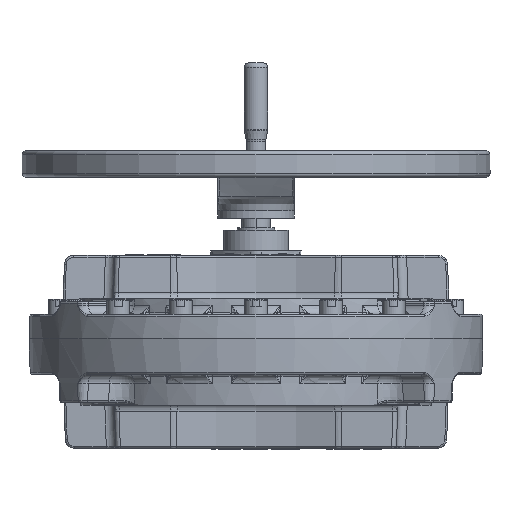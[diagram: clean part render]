
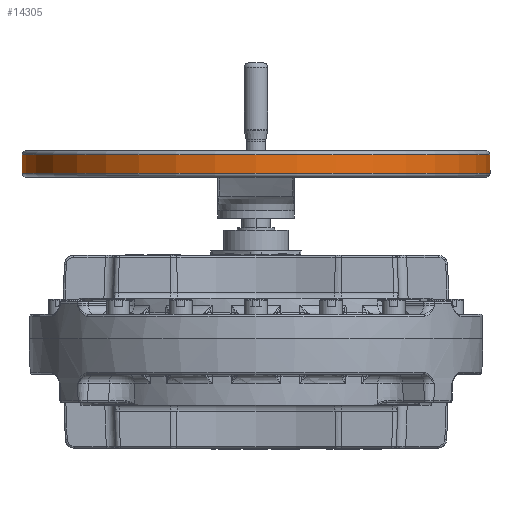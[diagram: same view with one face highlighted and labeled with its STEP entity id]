
A CAD part, front view. The second image highlights one B-rep face of the part: STEP entity #14305.
In plain terms, the highlighted cylindrical face has radius 250 mm (diameter 500 mm), a partial arc.
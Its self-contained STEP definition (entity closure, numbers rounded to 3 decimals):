
#1679 = VERTEX_POINT ( 'NONE', #101850 ) ;
#3200 = EDGE_CURVE ( 'NONE', #12859, #42496, #85063, .T. ) ;
#3873 = CARTESIAN_POINT ( 'NONE',  ( 0., 976.5, 176.76 ) ) ;
#9463 = EDGE_CURVE ( 'NONE', #115606, #12859, #89959, .T. ) ;
#11831 = CARTESIAN_POINT ( 'NONE',  ( 250., 976.5, 98.815 ) ) ;
#12859 = VERTEX_POINT ( 'NONE', #55051 ) ;
#14305 = ADVANCED_FACE ( 'NONE', ( #42751 ), #156165, .T. ) ;
#15064 = DIRECTION ( 'NONE',  ( 0., 0., -1. ) ) ;
#16422 = DIRECTION ( 'NONE',  ( -1., 0., 0. ) ) ;
#16521 = AXIS2_PLACEMENT_3D ( 'NONE', #31489, #117725, #118778 ) ;
#29419 = ORIENTED_EDGE ( 'NONE', *, *, #124407, .F. ) ;
#31489 = CARTESIAN_POINT ( 'NONE',  ( 0., 976.5, 98.815 ) ) ;
#35080 = CARTESIAN_POINT ( 'NONE',  ( -250., 976.5, 176.76 ) ) ;
#40083 = CARTESIAN_POINT ( 'NONE',  ( 250., 976.5, 196.76 ) ) ;
#42496 = VERTEX_POINT ( 'NONE', #35080 ) ;
#42751 = FACE_OUTER_BOUND ( 'NONE', #126619, .T. ) ;
#51800 = VECTOR ( 'NONE', #15064, 1000. ) ;
#54338 = DIRECTION ( 'NONE',  ( 0., 0., -1. ) ) ;
#55051 = CARTESIAN_POINT ( 'NONE',  ( -250., 976.5, 196.76 ) ) ;
#60073 = AXIS2_PLACEMENT_3D ( 'NONE', #3873, #91253, #16422 ) ;
#62083 = DIRECTION ( 'NONE',  ( 0., 0., -1. ) ) ;
#82005 = VECTOR ( 'NONE', #62083, 1000. ) ;
#85063 = LINE ( 'NONE', #152251, #51800 ) ;
#89959 = CIRCLE ( 'NONE', #103312, 250. ) ;
#91253 = DIRECTION ( 'NONE',  ( 0., 0., -1. ) ) ;
#101850 = CARTESIAN_POINT ( 'NONE',  ( 250., 976.5, 176.76 ) ) ;
#103312 = AXIS2_PLACEMENT_3D ( 'NONE', #129079, #54338, #141751 ) ;
#115159 = LINE ( 'NONE', #11831, #82005 ) ;
#115606 = VERTEX_POINT ( 'NONE', #40083 ) ;
#117725 = DIRECTION ( 'NONE',  ( 0., 0., -1. ) ) ;
#118778 = DIRECTION ( 'NONE',  ( -1., 0., 0. ) ) ;
#122326 = CIRCLE ( 'NONE', #60073, 250. ) ;
#124407 = EDGE_CURVE ( 'NONE', #115606, #1679, #115159, .T. ) ;
#126619 = EDGE_LOOP ( 'NONE', ( #29419, #160651, #156587, #152452 ) ) ;
#129079 = CARTESIAN_POINT ( 'NONE',  ( 0., 976.5, 196.76 ) ) ;
#141751 = DIRECTION ( 'NONE',  ( -1., 0., 0. ) ) ;
#147722 = EDGE_CURVE ( 'NONE', #1679, #42496, #122326, .T. ) ;
#152251 = CARTESIAN_POINT ( 'NONE',  ( -250., 976.5, 98.815 ) ) ;
#152452 = ORIENTED_EDGE ( 'NONE', *, *, #147722, .F. ) ;
#156165 = CYLINDRICAL_SURFACE ( 'NONE', #16521, 250. ) ;
#156587 = ORIENTED_EDGE ( 'NONE', *, *, #3200, .T. ) ;
#160651 = ORIENTED_EDGE ( 'NONE', *, *, #9463, .T. ) ;
